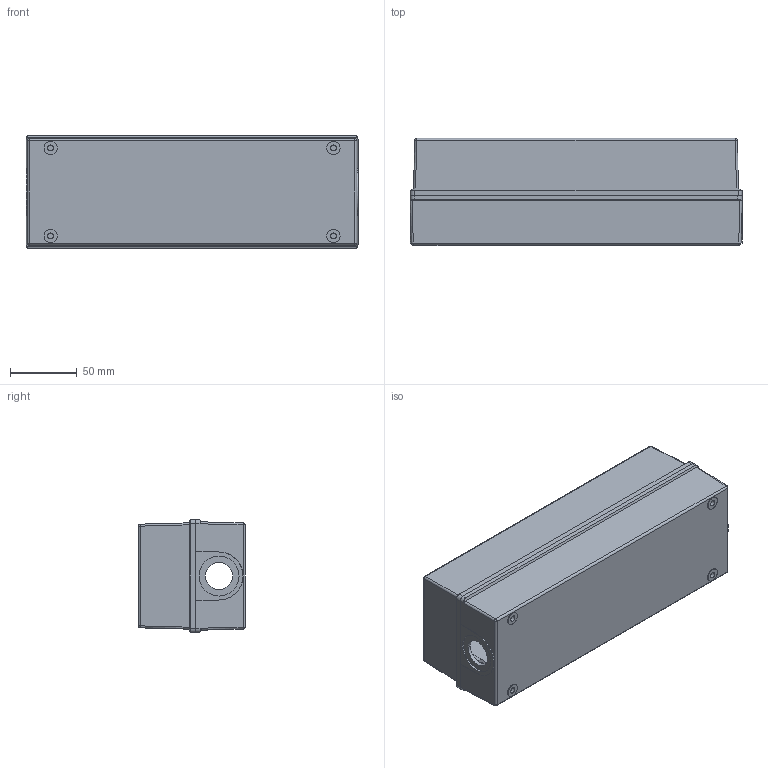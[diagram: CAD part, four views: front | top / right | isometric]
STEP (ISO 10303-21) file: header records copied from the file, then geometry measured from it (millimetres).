
FILE_DESCRIPTION((''),'2;1');
FILE_NAME('800F-5MX_ASM','2014-03-05T',('jqtang'),('Rockwell Automation'),'PRO/ENGINEER BY PARAMETRIC TECHNOLOGY CORPORATION, 2010140','PRO/ENGINEER BY PARAMETRIC TECHNOLOGY CORPORATION, 2010140','');
FILE_SCHEMA(('CONFIG_CONTROL_DESIGN'));
Length unit declared in the file: millimetre
Products named in the file (4): 18_102_576-05; 18_102_577; 40371-431-COVRSCRW; 800F-5MX_ASM
Assembly tree (6 placements, depth 2):
  800F-5MX_ASM
    18_102_576-05
    18_102_577
    40371-431-COVRSCRW  x4
Bounding box: 249 x 80.57 x 85 mm (x, y, z)
Volume: 263471.9 mm3; surface area: 193423.4 mm2
Topology: 6 solids, 6 shells, 633 faces, 1611 edges, 1051 vertices
Faces by surface type: plane 325, cylinder 214, cone 74, sphere 8, torus 8, bspline 4
Entity records: 18003 total; most frequent: CARTESIAN_POINT 3547, DIRECTION 3068, ORIENTED_EDGE 2930, EDGE_CURVE 1465, AXIS2_PLACEMENT_3D 1069, VERTEX_POINT 961, VECTOR 930, LINE 930
